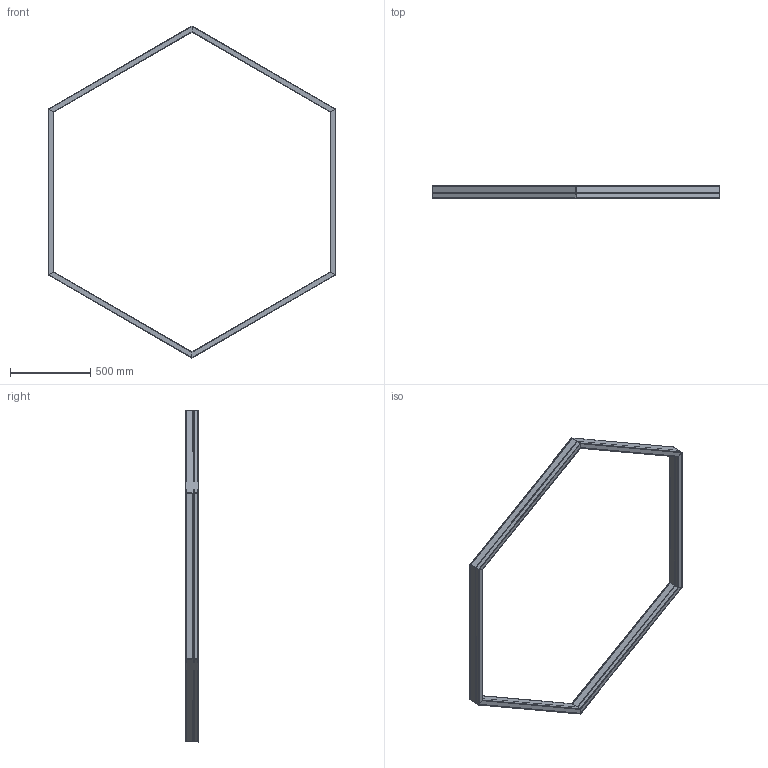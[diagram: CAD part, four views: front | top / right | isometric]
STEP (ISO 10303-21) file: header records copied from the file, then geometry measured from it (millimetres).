
FILE_DESCRIPTION(('STEP AP203'), '1');
FILE_NAME('Ìàòèê Ðèá 120Âò', '', ('UNSPECIFIED'), ('UNSPECIFIED'), 'ASCON STEP Converter 1.6', 'ASCON Math Kernel', '');
FILE_SCHEMA(('CONFIG_CONTROL_DESIGN'));
Length unit declared in the file: millimetre
Products named in the file (3): -01
Assembly tree (6 placements, depth 2):
  (unnamed)
    (unnamed)
    -01  x5
Bounding box: 1789.21 x 80 x 2066 mm (x, y, z)
Volume: 2438509 mm3; surface area: 3811628 mm2
Topology: 13 solids, 13 shells, 1091 faces, 3187 edges, 2125 vertices
Faces by surface type: cylinder 593, plane 496, torus 2
Full cylindrical faces by diameter (mm): 8 x1, 10 x2, 14 x2
Entity records: 12421 total; most frequent: CARTESIAN_POINT 3363, ORIENTED_EDGE 2136, DIRECTION 1444, EDGE_CURVE 1068, VERTEX_POINT 716, LINE 664, VECTOR 664, AXIS2_PLACEMENT_3D 390
